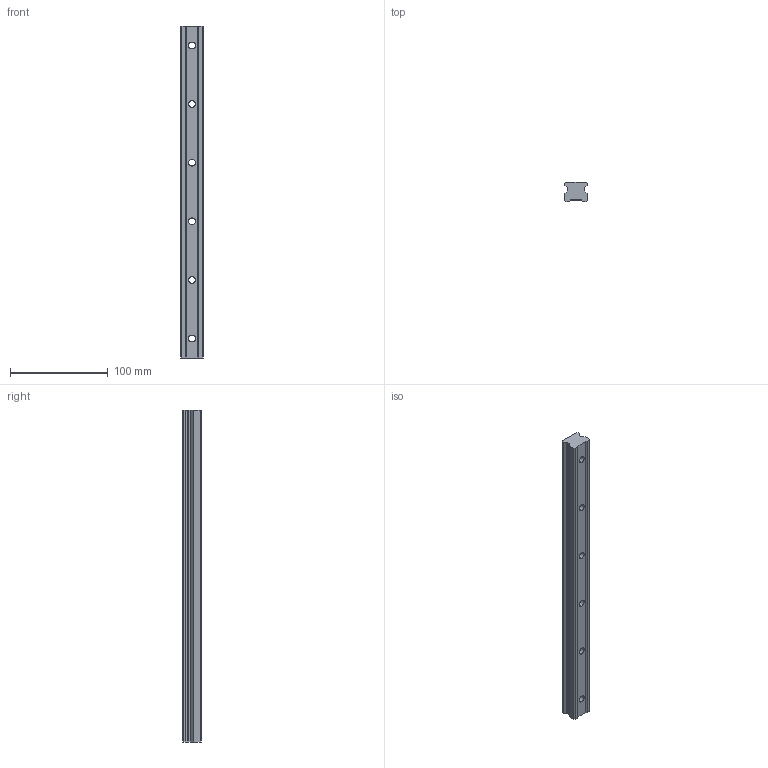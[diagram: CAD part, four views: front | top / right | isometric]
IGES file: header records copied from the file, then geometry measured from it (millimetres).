
Start section: SolidWorks IGES file using analytic representation for surfaces
Global section: file name: C:\Users\IanO\Desktop\L1016_v2\L1016.BL25_v2\L1016.BL25_v2_20160611_IGES\L1016.BL25-0340.igs; native system: SolidWorks 2017; preprocessor: SolidWorks 2017; author: IanO; date: 190612.130434; units: millimetre
Bounding box: 23 x 19.2 x 340 mm (x, y, z)
Surface area: 32984.6 mm2 (no closed solid volume)
Topology: 0 solids, 0 shells, 56 faces, 1032 edges, 1032 vertices
Faces by surface type: revolution 28, bspline 28
